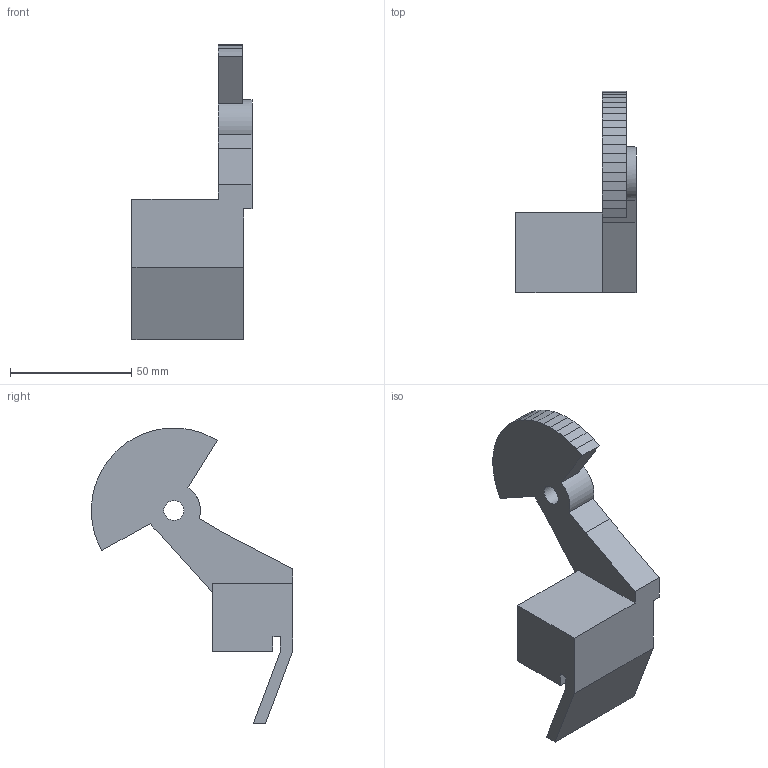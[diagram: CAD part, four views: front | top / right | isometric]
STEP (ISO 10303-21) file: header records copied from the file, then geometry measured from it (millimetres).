
FILE_DESCRIPTION(('Open CASCADE Model'),'2;1');
FILE_NAME('Open CASCADE Shape Model','2026-10-16T03:24:50',('Author'),( 'Open CASCADE'),'Open CASCADE STEP processor 7.9','Open CASCADE 7.9' ,'Unknown');
FILE_SCHEMA(('AUTOMOTIVE_DESIGN { 1 0 10303 214 1 1 1 1 }'));
Length unit declared in the file: millimetre
Products named in the file (1): Open CASCADE STEP translator 7.9 10
Bounding box: 49.5 x 82.96 x 122 mm (x, y, z)
Volume: 62935.8 mm3; surface area: 22618.9 mm2
Topology: 1 solids, 1 shells, 55 faces, 158 edges, 105 vertices
Faces by surface type: plane 53, cylinder 2
Full cylindrical faces by diameter (mm): 8.2 x1
Entity records: 3799 total; most frequent: CARTESIAN_POINT 710, DIRECTION 537, LINE 411, VECTOR 411, ORIENTED_EDGE 316, PCURVE 316, DEFINITIONAL_REPRESENTATION 316, EDGE_CURVE 158
